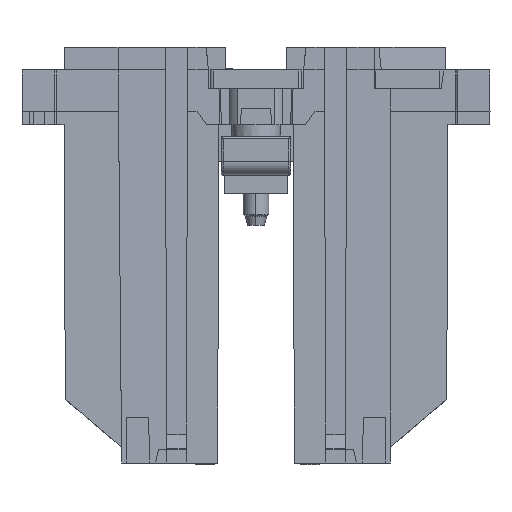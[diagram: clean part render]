
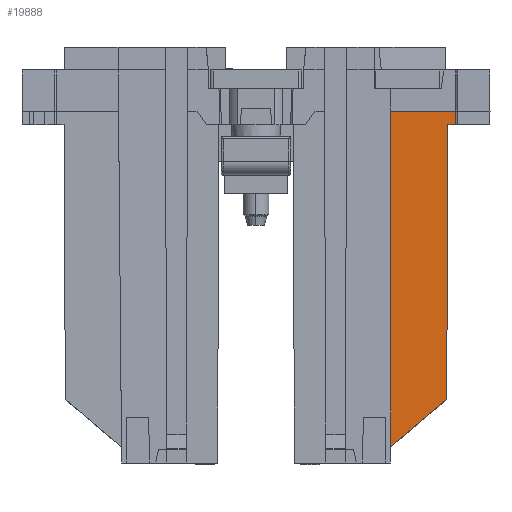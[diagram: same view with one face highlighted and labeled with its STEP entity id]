
A CAD part, front view. The second image highlights one B-rep face of the part: STEP entity #19888.
In plain terms, the highlighted planar face has unit normal (0, -1, -0.004) as drawn and (0, 1, -0.004) by its records, which use the part's own axes.
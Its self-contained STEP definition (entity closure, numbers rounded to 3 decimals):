
#952 = DIRECTION ( 'NONE',  ( 0.007, 0.004, 1. ) ) ;
#1789 = LINE ( 'NONE', #14093, #51777 ) ;
#2342 = DIRECTION ( 'NONE',  ( 0., 0.004, 1. ) ) ;
#2782 = EDGE_CURVE ( 'NONE', #41384, #23996, #47694, .T. ) ;
#3241 = CARTESIAN_POINT ( 'NONE',  ( -22.399, 9.865, -6. ) ) ;
#3950 = CARTESIAN_POINT ( 'NONE',  ( -22.389, 9.871, -4.5 ) ) ;
#7978 = EDGE_CURVE ( 'NONE', #12263, #23996, #46364, .T. ) ;
#8251 = VERTEX_POINT ( 'NONE', #3950 ) ;
#11356 = VERTEX_POINT ( 'NONE', #17539 ) ;
#11626 = CARTESIAN_POINT ( 'NONE',  ( -20.862, 9.734, -36.032 ) ) ;
#12263 = VERTEX_POINT ( 'NONE', #11626 ) ;
#14093 = CARTESIAN_POINT ( 'NONE',  ( 0., 9.871, -4.5 ) ) ;
#14619 = VECTOR ( 'NONE', #14763, 1000. ) ;
#14763 = DIRECTION ( 'NONE',  ( 1., 0., 0. ) ) ;
#15801 = FACE_OUTER_BOUND ( 'NONE', #33620, .T. ) ;
#16749 = ORIENTED_EDGE ( 'NONE', *, *, #28941, .F. ) ;
#17539 = CARTESIAN_POINT ( 'NONE',  ( -14.715, 9.871, -4.5 ) ) ;
#17891 = CARTESIAN_POINT ( 'NONE',  ( -24.311, 9.747, -33.101 ) ) ;
#18858 = DIRECTION ( 'NONE',  ( -0.004, 0.004, 1. ) ) ;
#18867 = CARTESIAN_POINT ( 'NONE',  ( -20.993, 9.865, -6. ) ) ;
#19888 = ADVANCED_FACE ( 'NONE', ( #15801 ), #47883, .T. ) ;
#21323 = ORIENTED_EDGE ( 'NONE', *, *, #52914, .T. ) ;
#23425 = EDGE_CURVE ( 'NONE', #11356, #35886, #48647, .T. ) ;
#23996 = VERTEX_POINT ( 'NONE', #18867 ) ;
#24260 = VECTOR ( 'NONE', #18858, 1000. ) ;
#24611 = VECTOR ( 'NONE', #46940, 1000. ) ;
#24690 = ORIENTED_EDGE ( 'NONE', *, *, #7978, .T. ) ;
#27243 = DIRECTION ( 'NONE',  ( 0., 1., -0.004 ) ) ;
#28941 = EDGE_CURVE ( 'NONE', #11356, #8251, #1789, .T. ) ;
#29532 = LINE ( 'NONE', #34130, #50322 ) ;
#30507 = ORIENTED_EDGE ( 'NONE', *, *, #37700, .T. ) ;
#30592 = DIRECTION ( 'NONE',  ( -1., 0., 0. ) ) ;
#32047 = DIRECTION ( 'NONE',  ( 0., -0.004, -1. ) ) ;
#33620 = EDGE_LOOP ( 'NONE', ( #40152, #30507, #16749, #47228, #21323, #24690 ) ) ;
#34130 = CARTESIAN_POINT ( 'NONE',  ( -22.388, 9.872, -4.346 ) ) ;
#34336 = LINE ( 'NONE', #17891, #24611 ) ;
#35405 = CARTESIAN_POINT ( 'NONE',  ( 0., 9.865, -6. ) ) ;
#35886 = VERTEX_POINT ( 'NONE', #43735 ) ;
#37591 = VECTOR ( 'NONE', #32047, 1000. ) ;
#37700 = EDGE_CURVE ( 'NONE', #41384, #8251, #29532, .T. ) ;
#40152 = ORIENTED_EDGE ( 'NONE', *, *, #2782, .F. ) ;
#41384 = VERTEX_POINT ( 'NONE', #3241 ) ;
#43735 = CARTESIAN_POINT ( 'NONE',  ( -14.715, 9.711, -41.257 ) ) ;
#43737 = CARTESIAN_POINT ( 'NONE',  ( 0., 9.871, -4.5 ) ) ;
#45889 = AXIS2_PLACEMENT_3D ( 'NONE', #43737, #27243, #2342 ) ;
#46364 = LINE ( 'NONE', #47896, #24260 ) ;
#46940 = DIRECTION ( 'NONE',  ( -0.762, 0.003, 0.648 ) ) ;
#47228 = ORIENTED_EDGE ( 'NONE', *, *, #23425, .T. ) ;
#47694 = LINE ( 'NONE', #35405, #14619 ) ;
#47883 = PLANE ( 'NONE',  #45889 ) ;
#47896 = CARTESIAN_POINT ( 'NONE',  ( -21., 9.871, -4.592 ) ) ;
#48647 = LINE ( 'NONE', #52737, #37591 ) ;
#50322 = VECTOR ( 'NONE', #952, 1000. ) ;
#51777 = VECTOR ( 'NONE', #30592, 1000. ) ;
#52737 = CARTESIAN_POINT ( 'NONE',  ( -14.715, 9.871, -4.5 ) ) ;
#52914 = EDGE_CURVE ( 'NONE', #35886, #12263, #34336, .T. ) ;
